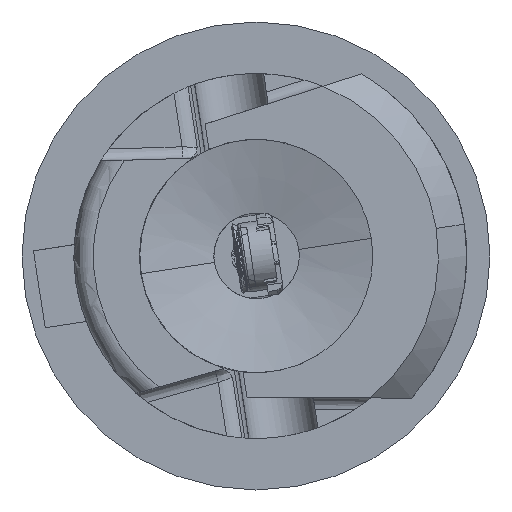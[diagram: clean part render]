
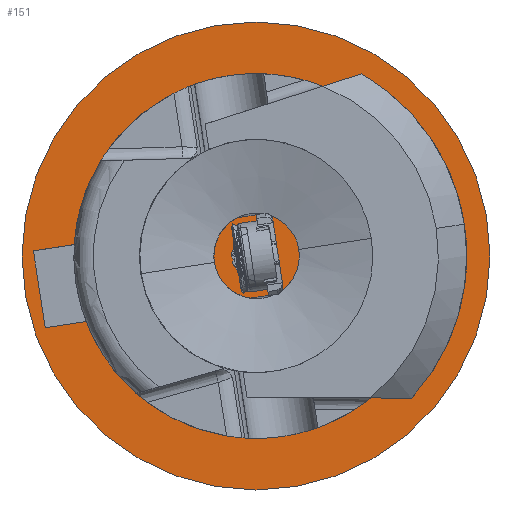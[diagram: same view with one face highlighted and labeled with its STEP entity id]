
A CAD part, left-side view. The second image highlights one B-rep face of the part: STEP entity #151.
In plain terms, the highlighted planar face has unit normal (-1, 0, 0).
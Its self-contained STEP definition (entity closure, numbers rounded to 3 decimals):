
#9=CARTESIAN_POINT('',(-39.344,5.331,90.));
#10=DIRECTION('',(1.,0.,0.));
#11=DIRECTION('',(0.,0.,1.));
#12=AXIS2_PLACEMENT_3D('',#9,#10,#11);
#14=CARTESIAN_POINT('',(-39.344,5.331,90.));
#15=DIRECTION('',(1.,0.,0.));
#16=DIRECTION('',(0.,0.,-1.));
#17=AXIS2_PLACEMENT_3D('',#14,#15,#16);
#19=CARTESIAN_POINT('',(-39.344,5.331,90.));
#20=DIRECTION('',(1.,0.,0.));
#21=DIRECTION('',(0.,-0.988,0.152));
#22=AXIS2_PLACEMENT_3D('',#19,#20,#21);
#24=CARTESIAN_POINT('',(-39.344,5.331,90.));
#25=DIRECTION('',(1.,0.,0.));
#26=DIRECTION('',(0.,0.988,-0.152));
#27=AXIS2_PLACEMENT_3D('',#24,#25,#26);
#111=CARTESIAN_POINT('',(-39.344,5.331,84.));
#112=VERTEX_POINT('',#111);
#113=CARTESIAN_POINT('',(-39.344,5.331,96.));
#114=VERTEX_POINT('',#113);
#115=CARTESIAN_POINT('',(-39.344,4.773,90.086));
#116=CARTESIAN_POINT('',(-39.344,5.89,89.914));
#117=VERTEX_POINT('',#115);
#118=VERTEX_POINT('',#116);
#135=CARTESIAN_POINT('',(-39.344,5.331,90.));
#136=DIRECTION('',(1.,0.,0.));
#137=DIRECTION('',(0.,1.,0.));
#138=AXIS2_PLACEMENT_3D('',#135,#136,#137);
#139=PLANE('',#138);
#141=ORIENTED_EDGE('',*,*,#140,.T.);
#143=ORIENTED_EDGE('',*,*,#142,.T.);
#144=EDGE_LOOP('',(#141,#143));
#145=FACE_OUTER_BOUND('',#144,.F.);
#147=ORIENTED_EDGE('',*,*,#146,.F.);
#148=ORIENTED_EDGE('',*,*,#124,.F.);
#149=EDGE_LOOP('',(#147,#148));
#150=FACE_BOUND('',#149,.F.);
#151=ADVANCED_FACE('',(#145,#150),#139,.F.);
#13=CIRCLE('',#12,6.);
#18=CIRCLE('',#17,6.);
#23=CIRCLE('',#22,0.565);
#28=CIRCLE('',#27,0.565);
#124=EDGE_CURVE('',#118,#117,#28,.T.);
#140=EDGE_CURVE('',#114,#112,#13,.T.);
#142=EDGE_CURVE('',#112,#114,#18,.T.);
#146=EDGE_CURVE('',#117,#118,#23,.T.);
